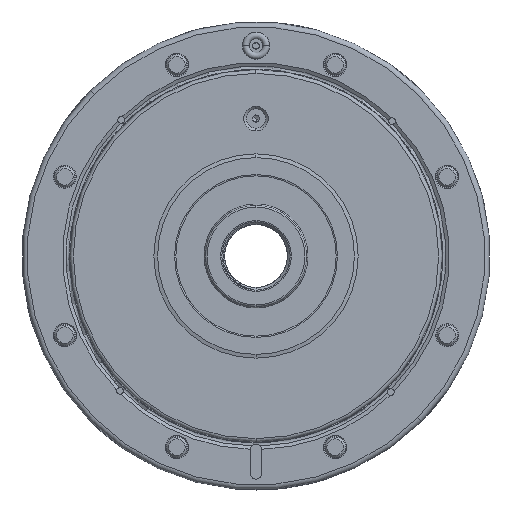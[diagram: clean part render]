
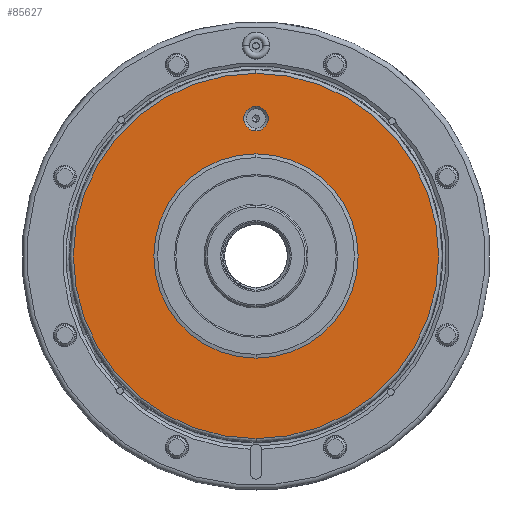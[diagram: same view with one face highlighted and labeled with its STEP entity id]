
A CAD part, front view. The second image highlights one B-rep face of the part: STEP entity #85627.
In plain terms, the highlighted planar face has unit normal (0, -1, 0).
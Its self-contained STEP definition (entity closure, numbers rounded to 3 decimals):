
#3484 = DIRECTION ( 'NONE',  ( 0., 0., -1. ) ) ;
#3729 = CARTESIAN_POINT ( 'NONE',  ( 19.81, 0.668, 39.53 ) ) ;
#4332 = CARTESIAN_POINT ( 'NONE',  ( 19.81, 0.668, -31.09 ) ) ;
#7181 = ORIENTED_EDGE ( 'NONE', *, *, #37920, .F. ) ;
#8222 = VERTEX_POINT ( 'NONE', #8563 ) ;
#8445 = EDGE_CURVE ( 'NONE', #8222, #78541, #82969, .T. ) ;
#8563 = CARTESIAN_POINT ( 'NONE',  ( 19.81, 0.668, 43.13 ) ) ;
#10271 = AXIS2_PLACEMENT_3D ( 'NONE', #60743, #54365, #3484 ) ;
#12411 = AXIS2_PLACEMENT_3D ( 'NONE', #81255, #73533, #59109 ) ;
#14614 = EDGE_LOOP ( 'NONE', ( #18221, #46443 ) ) ;
#15047 = FACE_OUTER_BOUND ( 'NONE', #41934, .T. ) ;
#18221 = ORIENTED_EDGE ( 'NONE', *, *, #38247, .F. ) ;
#19098 = AXIS2_PLACEMENT_3D ( 'NONE', #39035, #53619, #60289 ) ;
#21185 = EDGE_CURVE ( 'NONE', #74937, #72957, #26120, .T. ) ;
#21606 = AXIS2_PLACEMENT_3D ( 'NONE', #87561, #51963, #66333 ) ;
#26120 = CIRCLE ( 'NONE', #50558, 53.85 ) ;
#28290 = CARTESIAN_POINT ( 'NONE',  ( 19.81, 0.668, -54.82 ) ) ;
#33425 = CIRCLE ( 'NONE', #10271, 30.12 ) ;
#35321 = CARTESIAN_POINT ( 'NONE',  ( 19.81, 0.668, 35.93 ) ) ;
#37920 = EDGE_CURVE ( 'NONE', #78541, #8222, #74767, .T. ) ;
#38247 = EDGE_CURVE ( 'NONE', #66920, #41077, #61951, .T. ) ;
#39035 = CARTESIAN_POINT ( 'NONE',  ( 19.81, 0.668, -0.97 ) ) ;
#39890 = CARTESIAN_POINT ( 'NONE',  ( 19.81, 0.668, 52.88 ) ) ;
#40352 = DIRECTION ( 'NONE',  ( 0., -1., 0. ) ) ;
#41077 = VERTEX_POINT ( 'NONE', #4332 ) ;
#41934 = EDGE_LOOP ( 'NONE', ( #54009, #42363 ) ) ;
#42363 = ORIENTED_EDGE ( 'NONE', *, *, #21185, .T. ) ;
#44523 = FACE_BOUND ( 'NONE', #72381, .T. ) ;
#46443 = ORIENTED_EDGE ( 'NONE', *, *, #80731, .F. ) ;
#50558 = AXIS2_PLACEMENT_3D ( 'NONE', #59222, #81049, #81359 ) ;
#51951 = DIRECTION ( 'NONE',  ( 0., 0., 1. ) ) ;
#51963 = DIRECTION ( 'NONE',  ( 0., -1., 0. ) ) ;
#52602 = CIRCLE ( 'NONE', #21606, 53.85 ) ;
#53619 = DIRECTION ( 'NONE',  ( 0., -1., 0. ) ) ;
#54009 = ORIENTED_EDGE ( 'NONE', *, *, #76682, .T. ) ;
#54365 = DIRECTION ( 'NONE',  ( 0., -1., 0. ) ) ;
#54779 = FACE_BOUND ( 'NONE', #14614, .T. ) ;
#58829 = CARTESIAN_POINT ( 'NONE',  ( 19.81, 0.668, 29.149 ) ) ;
#58865 = AXIS2_PLACEMENT_3D ( 'NONE', #88180, #65380, #51951 ) ;
#59109 = DIRECTION ( 'NONE',  ( 0., 0., -1. ) ) ;
#59222 = CARTESIAN_POINT ( 'NONE',  ( 19.81, 0.668, -0.97 ) ) ;
#60289 = DIRECTION ( 'NONE',  ( 0., 0., -1. ) ) ;
#60743 = CARTESIAN_POINT ( 'NONE',  ( 19.81, 0.668, -0.97 ) ) ;
#61951 = CIRCLE ( 'NONE', #19098, 30.12 ) ;
#62302 = ORIENTED_EDGE ( 'NONE', *, *, #8445, .F. ) ;
#64412 = PLANE ( 'NONE',  #58865 ) ;
#65380 = DIRECTION ( 'NONE',  ( 0., 1., 0. ) ) ;
#66333 = DIRECTION ( 'NONE',  ( 0., 0., 1. ) ) ;
#66920 = VERTEX_POINT ( 'NONE', #58829 ) ;
#67662 = AXIS2_PLACEMENT_3D ( 'NONE', #3729, #40352, #91170 ) ;
#72381 = EDGE_LOOP ( 'NONE', ( #7181, #62302 ) ) ;
#72957 = VERTEX_POINT ( 'NONE', #39890 ) ;
#73533 = DIRECTION ( 'NONE',  ( 0., -1., 0. ) ) ;
#74767 = CIRCLE ( 'NONE', #12411, 3.6 ) ;
#74937 = VERTEX_POINT ( 'NONE', #28290 ) ;
#76682 = EDGE_CURVE ( 'NONE', #72957, #74937, #52602, .T. ) ;
#78541 = VERTEX_POINT ( 'NONE', #35321 ) ;
#80731 = EDGE_CURVE ( 'NONE', #41077, #66920, #33425, .T. ) ;
#81049 = DIRECTION ( 'NONE',  ( 0., -1., 0. ) ) ;
#81255 = CARTESIAN_POINT ( 'NONE',  ( 19.81, 0.668, 39.53 ) ) ;
#81359 = DIRECTION ( 'NONE',  ( 0., 0., 1. ) ) ;
#82969 = CIRCLE ( 'NONE', #67662, 3.6 ) ;
#85627 = ADVANCED_FACE ( 'NONE', ( #44523, #15047, #54779 ), #64412, .F. ) ;
#87561 = CARTESIAN_POINT ( 'NONE',  ( 19.81, 0.668, -0.97 ) ) ;
#88180 = CARTESIAN_POINT ( 'NONE',  ( 49.929, 0.668, -0.97 ) ) ;
#91170 = DIRECTION ( 'NONE',  ( 0., 0., -1. ) ) ;
